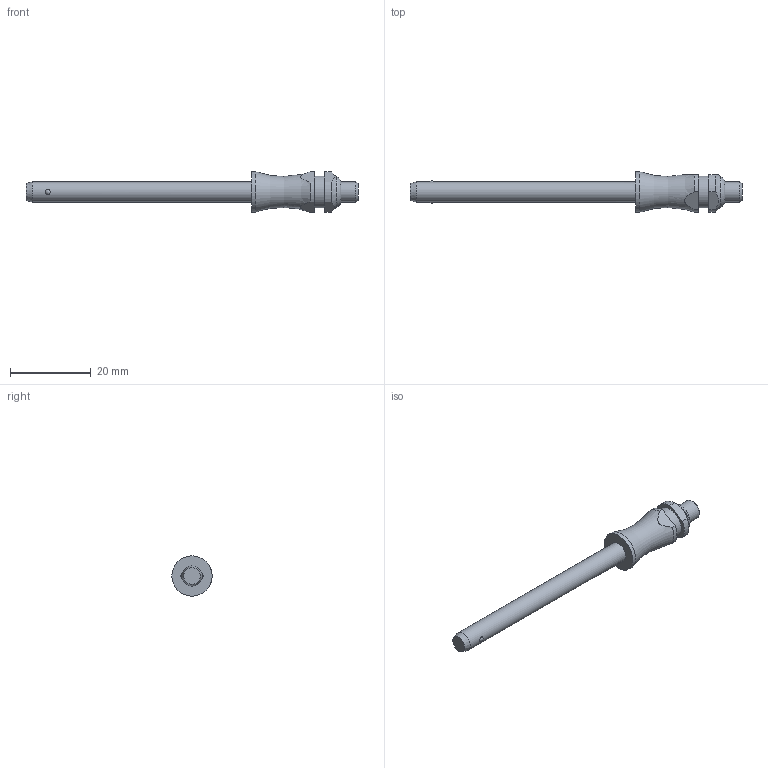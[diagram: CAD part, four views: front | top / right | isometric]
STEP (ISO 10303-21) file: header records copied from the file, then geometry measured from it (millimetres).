
FILE_DESCRIPTION( ( 'STEP AP203' ), '1' );
FILE_NAME( 'C:/Temp/Ganter_Step_05_03_2020/data/3_1/gn113_3/Stainless Steel-Ball lock pin GN 113.3-5-50 (deactivated).stp', '2020-03-12T08:18:12', ( 'License CC BY-ND 4.0' ), ( 'CADENAS' ), ' ', 'PARTsolutions', ' ' );
FILE_SCHEMA( ( 'CONFIG_CONTROL_DESIGN' ) );
Length unit declared in the file: millimetre
Products named in the file (1): _Stainless Steel-Ball lock pin GN 113.3-5-50 (deactivated)
Bounding box: 82.3 x 10 x 10 mm (x, y, z)
Volume: 2436.1 mm3; surface area: 1699.2 mm2
Topology: 1 solids, 1 shells, 29 faces, 61 edges, 40 vertices
Faces by surface type: plane 12, cylinder 10, cone 3, torus 2, sphere 2
Full cylindrical faces by diameter (mm): 5 x2, 7.9 x1, 10 x1
Entity records: 902 total; most frequent: CARTESIAN_POINT 272, DIRECTION 126, ORIENTED_EDGE 100, AXIS2_PLACEMENT_3D 54, EDGE_CURVE 50, EDGE_LOOP 44, VERTEX_POINT 38, FACE_OUTER_BOUND 35
